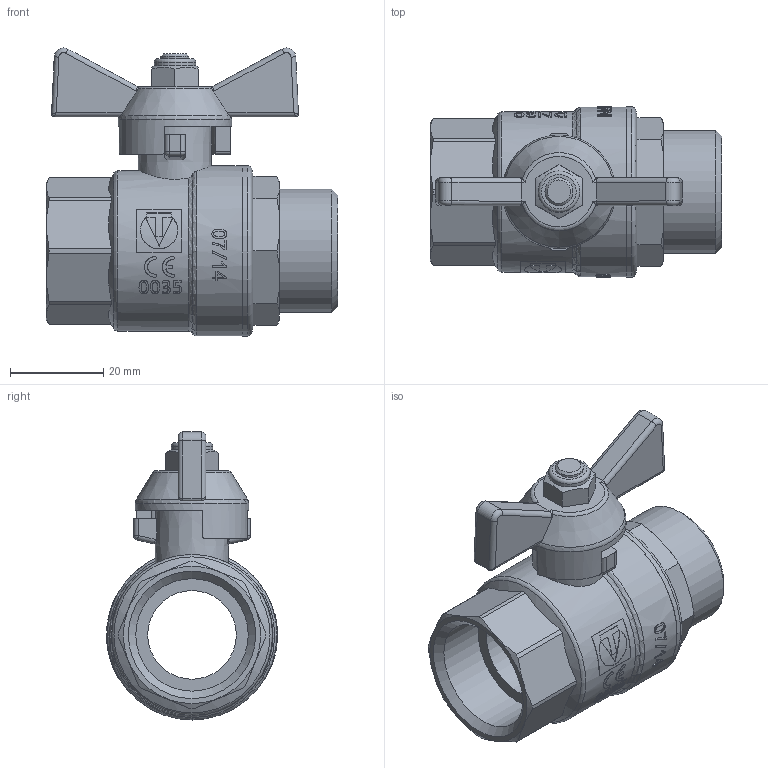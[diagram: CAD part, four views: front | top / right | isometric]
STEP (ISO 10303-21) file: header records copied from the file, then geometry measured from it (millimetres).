
FILE_DESCRIPTION(('TFLEX Exchange Step'),'2;1');
FILE_NAME('Ball valve DN20, 3_4 VT.218.N.05 Valtec.stp', '2023-09-12T15:25:54+03:00',('denis'),('Unknown organisation'),'TFLEX Exchange 2023.0','T-FLEX CAD','Unknown authorisation');
FILE_SCHEMA( ('AUTOMOTIVE_DESIGN { 1 0 10303 214 1 1 1 1 }') );
Length unit declared in the file: millimetre
Products named in the file (1): Nodes
Bounding box: 62.5 x 36.64 x 61.77 mm (x, y, z)
Volume: 39008.2 mm3; surface area: 15258.9 mm2
Topology: 3 solids, 3 shells, 539 faces, 1406 edges, 922 vertices
Faces by surface type: plane 207, bspline 194, cylinder 102, cone 19, torus 13, sphere 4
Full cylindrical faces by diameter (mm): 6 x1, 8.9 x1, 19 x1, 24.1 x1, 24.322 x1, 26.4 x1, 34.458 x1, 36.444 x1, 36.509 x1
Entity records: 24497 total; most frequent: CARTESIAN_POINT 12840, ORIENTED_EDGE 2808, DIRECTION 1717, EDGE_CURVE 1404, VERTEX_POINT 922, B_SPLINE_CURVE_WITH_KNOTS 653, AXIS2_PLACEMENT_3D 634, EDGE_LOOP 592
